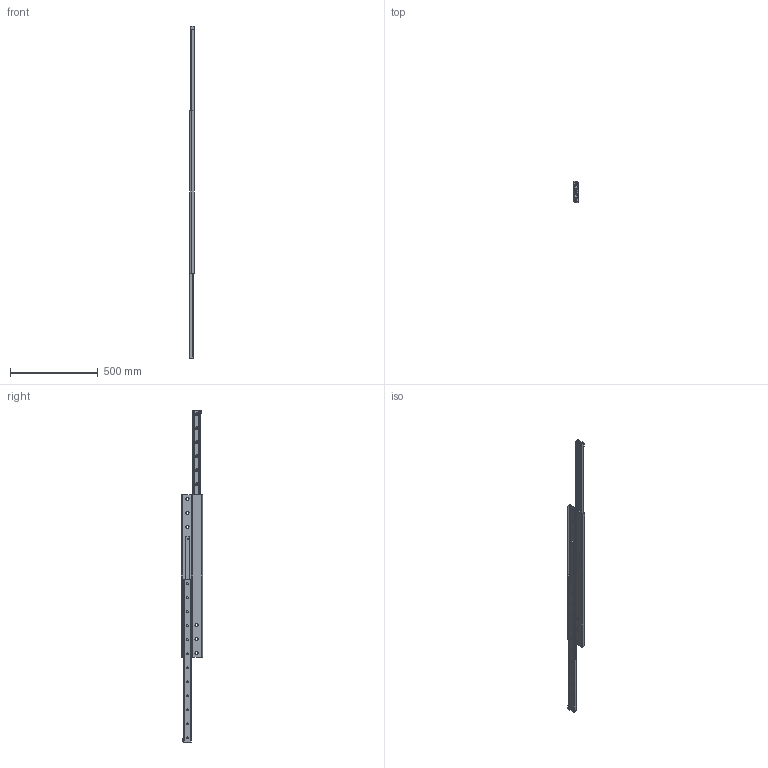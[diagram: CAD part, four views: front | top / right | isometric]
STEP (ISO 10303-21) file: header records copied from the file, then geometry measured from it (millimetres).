
FILE_DESCRIPTION(('STEP AP214'),'1');
FILE_NAME('rail_dss43-930_01.stp','2017-04-17T04:00:04',('TraceParts'),('TraceParts S.A.'),'Spatial InterOp 3D',' ',' ');
FILE_SCHEMA(('automotive_design'));
Length unit declared in the file: millimetre
Products named in the file (3): rail_dss43-930_01_1; rail_dss43-930_01_2; rail_dss43-930_01_3
Bounding box: 28 x 120 x 1896 mm (x, y, z)
Volume: 1651883.4 mm3; surface area: 666340.3 mm2
Topology: 3 solids, 3 shells, 298 faces, 798 edges, 516 vertices
Faces by surface type: plane 138, cylinder 112, cone 48
Entity records: 9491 total; most frequent: DIRECTION 1688, CARTESIAN_POINT 1615, ORIENTED_EDGE 1596, EDGE_CURVE 798, AXIS2_PLACEMENT_3D 589, VERTEX_POINT 516, LINE 510, VECTOR 510
